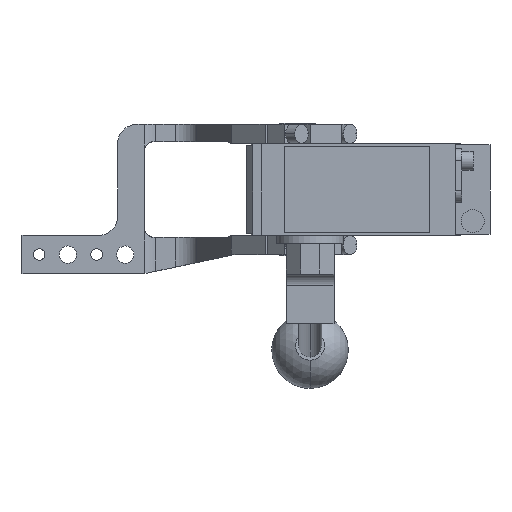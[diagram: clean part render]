
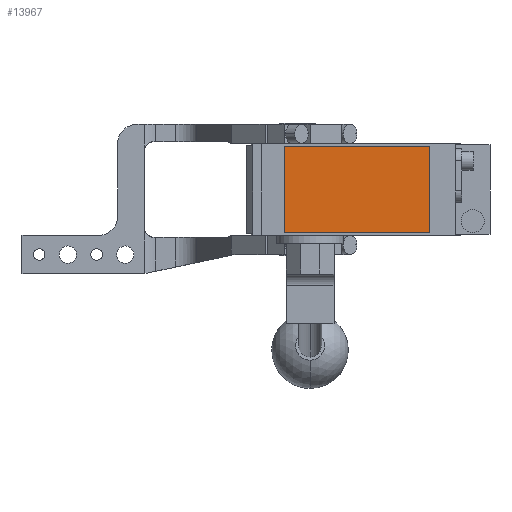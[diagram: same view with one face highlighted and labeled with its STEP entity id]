
A CAD part, front view. The second image highlights one B-rep face of the part: STEP entity #13967.
In plain terms, the highlighted planar face has unit normal (0, -1, 0).
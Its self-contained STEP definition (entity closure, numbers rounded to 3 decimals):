
#97 = PLANE ( 'NONE',  #5662 ) ;
#205 = LINE ( 'NONE', #8320, #10448 ) ;
#879 = LINE ( 'NONE', #10205, #7534 ) ;
#939 = EDGE_CURVE ( 'NONE', #10425, #9210, #11615, .T. ) ;
#1201 = DIRECTION ( 'NONE',  ( -1., 0., 0. ) ) ;
#1763 = ORIENTED_EDGE ( 'NONE', *, *, #11493, .T. ) ;
#2377 = DIRECTION ( 'NONE',  ( 0., 0., -1. ) ) ;
#3496 = CARTESIAN_POINT ( 'NONE',  ( 69., -280.5, -22.5 ) ) ;
#5427 = LINE ( 'NONE', #12298, #12092 ) ;
#5573 = DIRECTION ( 'NONE',  ( 0., 0., 1. ) ) ;
#5662 = AXIS2_PLACEMENT_3D ( 'NONE', #9276, #7980, #13881 ) ;
#5932 = EDGE_CURVE ( 'NONE', #9143, #7464, #5427, .T. ) ;
#7464 = VERTEX_POINT ( 'NONE', #13080 ) ;
#7534 = VECTOR ( 'NONE', #8852, 1000. ) ;
#7980 = DIRECTION ( 'NONE',  ( 0., -1., 0. ) ) ;
#8320 = CARTESIAN_POINT ( 'NONE',  ( -7., -280.5, 22.5 ) ) ;
#8511 = ORIENTED_EDGE ( 'NONE', *, *, #8621, .T. ) ;
#8621 = EDGE_CURVE ( 'NONE', #7464, #10425, #205, .T. ) ;
#8852 = DIRECTION ( 'NONE',  ( 1., 0., 0. ) ) ;
#9143 = VERTEX_POINT ( 'NONE', #3496 ) ;
#9210 = VERTEX_POINT ( 'NONE', #14093 ) ;
#9276 = CARTESIAN_POINT ( 'NONE',  ( 0., -280.5, 0. ) ) ;
#10205 = CARTESIAN_POINT ( 'NONE',  ( -7., -280.5, -22.5 ) ) ;
#10401 = VECTOR ( 'NONE', #2377, 1000. ) ;
#10425 = VERTEX_POINT ( 'NONE', #12227 ) ;
#10448 = VECTOR ( 'NONE', #1201, 1000. ) ;
#11067 = ORIENTED_EDGE ( 'NONE', *, *, #5932, .T. ) ;
#11493 = EDGE_CURVE ( 'NONE', #9210, #9143, #879, .T. ) ;
#11615 = LINE ( 'NONE', #12683, #10401 ) ;
#12092 = VECTOR ( 'NONE', #5573, 1000. ) ;
#12182 = EDGE_LOOP ( 'NONE', ( #13721, #1763, #11067, #8511 ) ) ;
#12227 = CARTESIAN_POINT ( 'NONE',  ( -7., -280.5, 22.5 ) ) ;
#12298 = CARTESIAN_POINT ( 'NONE',  ( 69., -280.5, 22.5 ) ) ;
#12683 = CARTESIAN_POINT ( 'NONE',  ( -7., -280.5, 22.5 ) ) ;
#13080 = CARTESIAN_POINT ( 'NONE',  ( 69., -280.5, 22.5 ) ) ;
#13721 = ORIENTED_EDGE ( 'NONE', *, *, #939, .T. ) ;
#13881 = DIRECTION ( 'NONE',  ( 0., 0., -1. ) ) ;
#13967 = ADVANCED_FACE ( 'NONE', ( #14874 ), #97, .T. ) ;
#14093 = CARTESIAN_POINT ( 'NONE',  ( -7., -280.5, -22.5 ) ) ;
#14874 = FACE_OUTER_BOUND ( 'NONE', #12182, .T. ) ;
